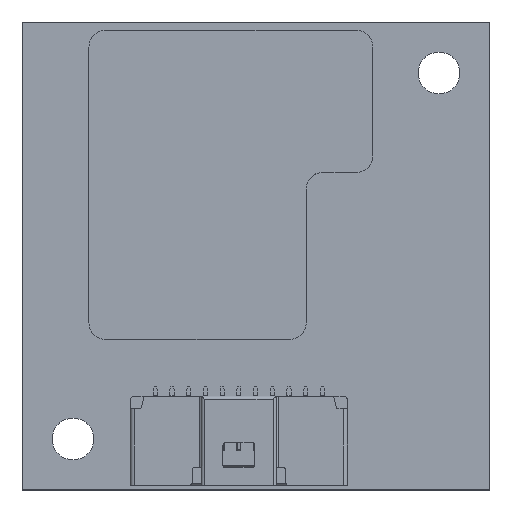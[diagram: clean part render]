
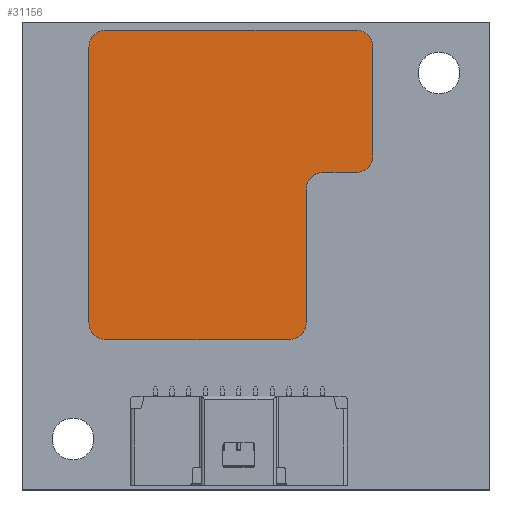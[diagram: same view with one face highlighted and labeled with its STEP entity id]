
A CAD part, top view. The second image highlights one B-rep face of the part: STEP entity #31156.
In plain terms, the highlighted planar face has unit normal (0, 0, 1).
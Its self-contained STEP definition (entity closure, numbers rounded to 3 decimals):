
#169 = CARTESIAN_POINT ( 'NONE',  ( -5.5, 25., 1.4 ) ) ;
#967 = CARTESIAN_POINT ( 'NONE',  ( -22.5, 26., 1.4 ) ) ;
#2435 = CIRCLE ( 'NONE', #18229, 1. ) ;
#2514 = ORIENTED_EDGE ( 'NONE', *, *, #11796, .T. ) ;
#3094 = DIRECTION ( 'NONE',  ( 1., 0., 0. ) ) ;
#3320 = CARTESIAN_POINT ( 'NONE',  ( -22.5, 25., 1.4 ) ) ;
#3736 = ORIENTED_EDGE ( 'NONE', *, *, #44418, .T. ) ;
#5878 = LINE ( 'NONE', #43325, #32476 ) ;
#7532 = ORIENTED_EDGE ( 'NONE', *, *, #9683, .T. ) ;
#8392 = DIRECTION ( 'NONE',  ( -1., 0., 0. ) ) ;
#9683 = EDGE_CURVE ( 'NONE', #13203, #15033, #15557, .T. ) ;
#9685 = AXIS2_PLACEMENT_3D ( 'NONE', #12688, #22809, #23041 ) ;
#10083 = DIRECTION ( 'NONE',  ( -1., 0., 0. ) ) ;
#10273 = EDGE_LOOP ( 'NONE', ( #7532, #43186, #13425, #35420, #12777, #24548, #36950, #16960, #31580, #20126, #3736, #2514 ) ) ;
#10491 = DIRECTION ( 'NONE',  ( 0., 0., -1. ) ) ;
#10639 = CARTESIAN_POINT ( 'NONE',  ( -8.5, 17.5, 1.4 ) ) ;
#10911 = DIRECTION ( 'NONE',  ( -1., 0., 0. ) ) ;
#11409 = VERTEX_POINT ( 'NONE', #32846 ) ;
#11796 = EDGE_CURVE ( 'NONE', #36280, #13203, #36835, .T. ) ;
#11837 = CARTESIAN_POINT ( 'NONE',  ( -5.5, 18.5, 1.4 ) ) ;
#12381 = AXIS2_PLACEMENT_3D ( 'NONE', #41789, #24863, #10911 ) ;
#12688 = CARTESIAN_POINT ( 'NONE',  ( -10.5, 8.5, 1.4 ) ) ;
#12705 = CARTESIAN_POINT ( 'NONE',  ( -22.5, 8.5, 1.4 ) ) ;
#12777 = ORIENTED_EDGE ( 'NONE', *, *, #39867, .T. ) ;
#13000 = CARTESIAN_POINT ( 'NONE',  ( -21.5, 8.5, 1.4 ) ) ;
#13203 = VERTEX_POINT ( 'NONE', #3320 ) ;
#13425 = ORIENTED_EDGE ( 'NONE', *, *, #39080, .T. ) ;
#14081 = VERTEX_POINT ( 'NONE', #18977 ) ;
#14457 = CIRCLE ( 'NONE', #20945, 1. ) ;
#14705 = CIRCLE ( 'NONE', #9685, 1. ) ;
#15033 = VERTEX_POINT ( 'NONE', #12705 ) ;
#15557 = LINE ( 'NONE', #29784, #35621 ) ;
#16036 = CIRCLE ( 'NONE', #21814, 1. ) ;
#16956 = VERTEX_POINT ( 'NONE', #33036 ) ;
#16960 = ORIENTED_EDGE ( 'NONE', *, *, #43795, .T. ) ;
#17901 = CARTESIAN_POINT ( 'NONE',  ( -10.5, 7.5, 1.4 ) ) ;
#18229 = AXIS2_PLACEMENT_3D ( 'NONE', #27629, #24464, #42077 ) ;
#18236 = VERTEX_POINT ( 'NONE', #169 ) ;
#18395 = DIRECTION ( 'NONE',  ( 0., 0., 1. ) ) ;
#18836 = LINE ( 'NONE', #39374, #23472 ) ;
#18840 = CARTESIAN_POINT ( 'NONE',  ( -9.5, 8.5, 1.4 ) ) ;
#18977 = CARTESIAN_POINT ( 'NONE',  ( -6.5, 26., 1.4 ) ) ;
#19648 = VECTOR ( 'NONE', #3094, 1000. ) ;
#19739 = LINE ( 'NONE', #33950, #19648 ) ;
#20126 = ORIENTED_EDGE ( 'NONE', *, *, #38131, .T. ) ;
#20263 = EDGE_CURVE ( 'NONE', #41776, #18236, #5878, .T. ) ;
#20381 = DIRECTION ( 'NONE',  ( -1., 0., 0. ) ) ;
#20602 = CARTESIAN_POINT ( 'NONE',  ( -8.5, 16.5, 1.4 ) ) ;
#20945 = AXIS2_PLACEMENT_3D ( 'NONE', #42800, #18395, #43259 ) ;
#21697 = LINE ( 'NONE', #967, #29690 ) ;
#21814 = AXIS2_PLACEMENT_3D ( 'NONE', #20602, #10491, #20381 ) ;
#22405 = VERTEX_POINT ( 'NONE', #18840 ) ;
#22809 = DIRECTION ( 'NONE',  ( 0., 0., 1. ) ) ;
#23041 = DIRECTION ( 'NONE',  ( -1., 0., 0. ) ) ;
#23342 = DIRECTION ( 'NONE',  ( -1., 0., 0. ) ) ;
#23472 = VECTOR ( 'NONE', #42783, 1000. ) ;
#23751 = EDGE_CURVE ( 'NONE', #28882, #22405, #14705, .T. ) ;
#23827 = VERTEX_POINT ( 'NONE', #10639 ) ;
#24464 = DIRECTION ( 'NONE',  ( 0., 0., 1. ) ) ;
#24548 = ORIENTED_EDGE ( 'NONE', *, *, #32122, .T. ) ;
#24863 = DIRECTION ( 'NONE',  ( 0., 0., 1. ) ) ;
#24991 = DIRECTION ( 'NONE',  ( 0., 1., 0. ) ) ;
#25664 = VERTEX_POINT ( 'NONE', #42258 ) ;
#25925 = DIRECTION ( 'NONE',  ( 0., 1., 0. ) ) ;
#26539 = FACE_OUTER_BOUND ( 'NONE', #10273, .T. ) ;
#26961 = PLANE ( 'NONE',  #32506 ) ;
#27413 = CARTESIAN_POINT ( 'NONE',  ( 0., 0., 1.4 ) ) ;
#27629 = CARTESIAN_POINT ( 'NONE',  ( -6.5, 25., 1.4 ) ) ;
#27688 = EDGE_CURVE ( 'NONE', #23827, #25664, #18836, .T. ) ;
#27849 = EDGE_CURVE ( 'NONE', #15033, #11409, #38616, .T. ) ;
#28373 = CARTESIAN_POINT ( 'NONE',  ( -9.5, 17.5, 1.4 ) ) ;
#28882 = VERTEX_POINT ( 'NONE', #17901 ) ;
#29690 = VECTOR ( 'NONE', #8392, 1000. ) ;
#29784 = CARTESIAN_POINT ( 'NONE',  ( -22.5, 7.5, 1.4 ) ) ;
#30343 = DIRECTION ( 'NONE',  ( 0., 0., 1. ) ) ;
#31156 = ADVANCED_FACE ( 'NONE', ( #26539 ), #26961, .F. ) ;
#31580 = ORIENTED_EDGE ( 'NONE', *, *, #20263, .T. ) ;
#31753 = LINE ( 'NONE', #28373, #37031 ) ;
#32122 = EDGE_CURVE ( 'NONE', #16956, #23827, #16036, .T. ) ;
#32476 = VECTOR ( 'NONE', #25925, 1000. ) ;
#32506 = AXIS2_PLACEMENT_3D ( 'NONE', #27413, #40741, #10083 ) ;
#32846 = CARTESIAN_POINT ( 'NONE',  ( -21.5, 7.5, 1.4 ) ) ;
#33036 = CARTESIAN_POINT ( 'NONE',  ( -9.5, 16.5, 1.4 ) ) ;
#33585 = AXIS2_PLACEMENT_3D ( 'NONE', #13000, #30343, #23342 ) ;
#33950 = CARTESIAN_POINT ( 'NONE',  ( -9.5, 7.5, 1.4 ) ) ;
#35420 = ORIENTED_EDGE ( 'NONE', *, *, #23751, .T. ) ;
#35621 = VECTOR ( 'NONE', #42656, 1000. ) ;
#36280 = VERTEX_POINT ( 'NONE', #44640 ) ;
#36835 = CIRCLE ( 'NONE', #12381, 1. ) ;
#36950 = ORIENTED_EDGE ( 'NONE', *, *, #27688, .T. ) ;
#37031 = VECTOR ( 'NONE', #24991, 1000. ) ;
#38131 = EDGE_CURVE ( 'NONE', #18236, #14081, #2435, .T. ) ;
#38616 = CIRCLE ( 'NONE', #33585, 1. ) ;
#39080 = EDGE_CURVE ( 'NONE', #11409, #28882, #19739, .T. ) ;
#39374 = CARTESIAN_POINT ( 'NONE',  ( -5.5, 17.5, 1.4 ) ) ;
#39867 = EDGE_CURVE ( 'NONE', #22405, #16956, #31753, .T. ) ;
#40741 = DIRECTION ( 'NONE',  ( 0., 0., -1. ) ) ;
#41776 = VERTEX_POINT ( 'NONE', #11837 ) ;
#41789 = CARTESIAN_POINT ( 'NONE',  ( -21.5, 25., 1.4 ) ) ;
#42077 = DIRECTION ( 'NONE',  ( -1., 0., 0. ) ) ;
#42258 = CARTESIAN_POINT ( 'NONE',  ( -6.5, 17.5, 1.4 ) ) ;
#42656 = DIRECTION ( 'NONE',  ( 0., -1., 0. ) ) ;
#42783 = DIRECTION ( 'NONE',  ( 1., 0., 0. ) ) ;
#42800 = CARTESIAN_POINT ( 'NONE',  ( -6.5, 18.5, 1.4 ) ) ;
#43186 = ORIENTED_EDGE ( 'NONE', *, *, #27849, .T. ) ;
#43259 = DIRECTION ( 'NONE',  ( -1., 0., 0. ) ) ;
#43325 = CARTESIAN_POINT ( 'NONE',  ( -5.5, 26., 1.4 ) ) ;
#43795 = EDGE_CURVE ( 'NONE', #25664, #41776, #14457, .T. ) ;
#44418 = EDGE_CURVE ( 'NONE', #14081, #36280, #21697, .T. ) ;
#44640 = CARTESIAN_POINT ( 'NONE',  ( -21.5, 26., 1.4 ) ) ;
